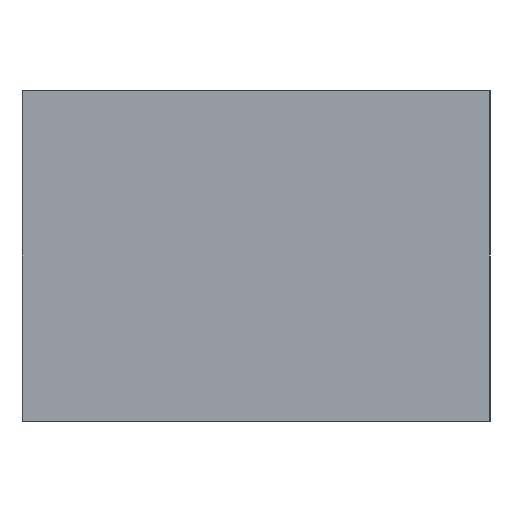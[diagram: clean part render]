
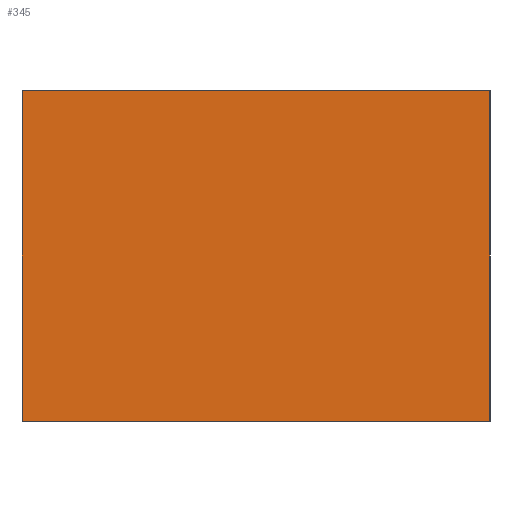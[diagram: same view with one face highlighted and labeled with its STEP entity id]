
A CAD part, left-side view. The second image highlights one B-rep face of the part: STEP entity #345.
In plain terms, the highlighted planar face has unit normal (-1, 0, 0).
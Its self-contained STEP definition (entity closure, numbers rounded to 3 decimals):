
#310 = CARTESIAN_POINT('',(-0.8,-0.425,0.));
#311 = VERTEX_POINT('',#310);
#312 = CARTESIAN_POINT('',(-0.8,-0.425,0.6));
#313 = VERTEX_POINT('',#312);
#314 = CARTESIAN_POINT('',(-0.8,0.425,0.6));
#315 = VERTEX_POINT('',#314);
#316 = CARTESIAN_POINT('',(-0.8,0.425,0.));
#317 = VERTEX_POINT('',#316);
#318 = DIRECTION('',(0.,0.,1.));
#319 = VECTOR('',#318,1.);
#320 = LINE('',#310,#319);
#321 = EDGE_CURVE('',#311,#313,#320,.T.);
#322 = ORIENTED_EDGE('',*,*,#321,.T.);
#323 = DIRECTION('',(0.,1.,0.));
#324 = VECTOR('',#323,1.);
#325 = LINE('',#312,#324);
#326 = EDGE_CURVE('',#313,#315,#325,.T.);
#327 = ORIENTED_EDGE('',*,*,#326,.T.);
#328 = DIRECTION('',(0.,0.,1.));
#329 = VECTOR('',#328,1.);
#330 = LINE('',#316,#329);
#331 = EDGE_CURVE('',#317,#315,#330,.T.);
#332 = ORIENTED_EDGE('',*,*,#331,.F.);
#333 = DIRECTION('',(0.,1.,0.));
#334 = VECTOR('',#333,1.);
#335 = LINE('',#310,#334);
#336 = EDGE_CURVE('',#311,#317,#335,.T.);
#337 = ORIENTED_EDGE('',*,*,#336,.F.);
#338 = CARTESIAN_POINT('',(-0.8,-0.425,0.));
#339 = DIRECTION('',(-1.,0.,0.));
#340 = DIRECTION('',(0.,0.,1.));
#341 = AXIS2_PLACEMENT_3D('',#338,#339,#340);
#342 = PLANE('',#341);
#343 = EDGE_LOOP('',(#322,#327,#332,#337));
#344 = FACE_OUTER_BOUND('',#343,.T.);
#345 = ADVANCED_FACE('',(#344),#342,.T.);
